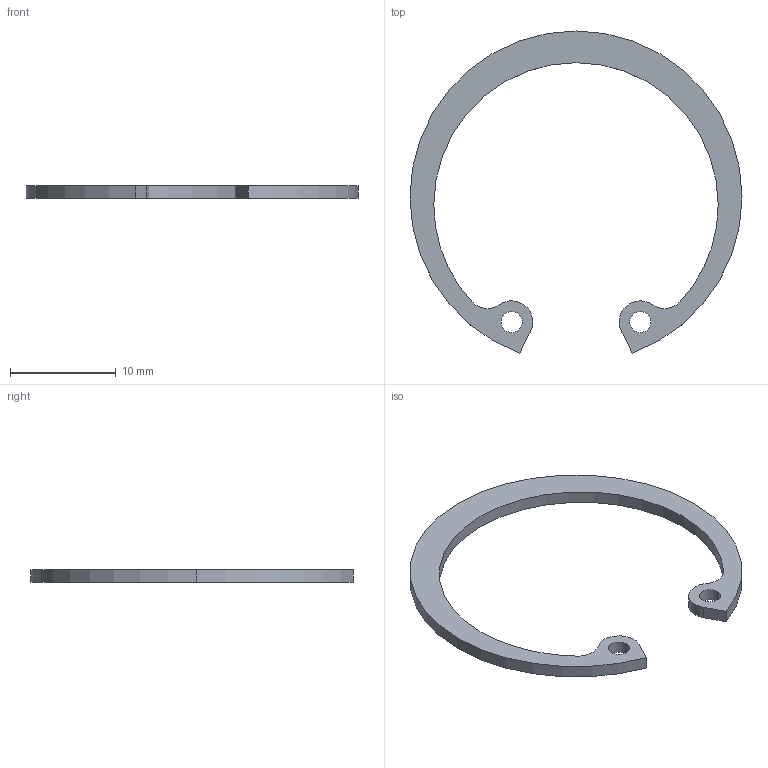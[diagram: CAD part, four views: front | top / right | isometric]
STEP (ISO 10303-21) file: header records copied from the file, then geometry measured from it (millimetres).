
FILE_DESCRIPTION (( 'STEP AP214' ), '1' );
FILE_NAME ('Anneau élastique 8.STEP', '2005-04-07T16:48:33', ( 'frantz' ), ( '' ), 'SwSTEP 2.0', 'SolidWorks 2004104', '' );
FILE_SCHEMA (( 'AUTOMOTIVE_DESIGN' ));
Length unit declared in the file: centimetre
Products named in the file (1): Anneau élastique 8
Bounding box: 31.4 x 30.46 x 1.2 mm (x, y, z)
Volume: 245.7 mm3; surface area: 629.9 mm2
Topology: 1 solids, 1 shells, 19 faces, 51 edges, 34 vertices
Faces by surface type: cylinder 15, plane 4
Entity records: 646 total; most frequent: DIRECTION 121, CARTESIAN_POINT 105, ORIENTED_EDGE 102, EDGE_CURVE 51, AXIS2_PLACEMENT_3D 50, VERTEX_POINT 34, CIRCLE 30, EDGE_LOOP 23
